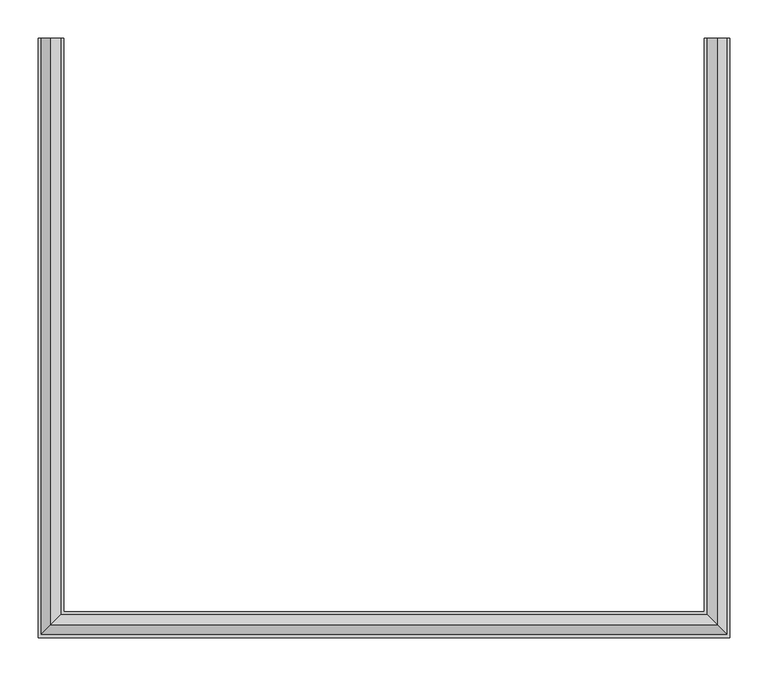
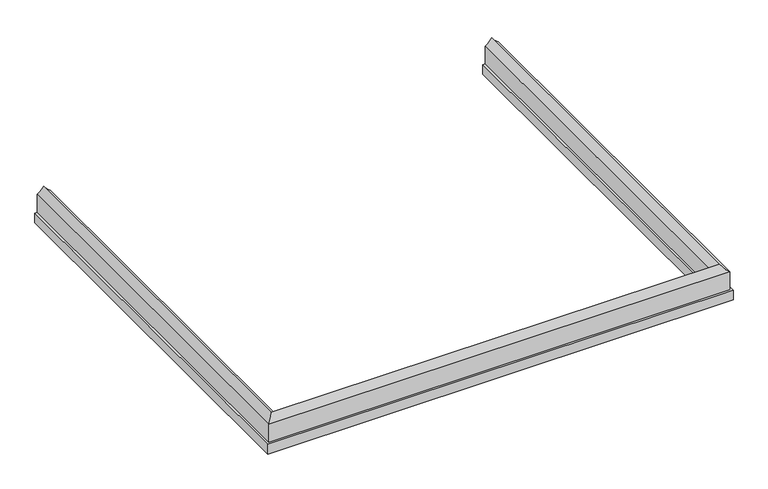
"""IFC4 building model written with IfcOpenShell, lengths in millimetres: proxy geometry, Toilet-Partition_Ironwood-Mfg_Compact-Laminate : Compact Laminate - Headrail Braced - Louver Door."""

from ifc_helpers import new_model, si_unit, frame, origin, place, context, project, spatial, polyline, circle_curve, ellipse_curve, source, transform, mapped, element, save
from ifc_brep_helpers import plane_surface, cylinder_surface, revolved_surface, advanced_brep


def specialty_equipment_5617d1bd(model_context):
    return source(origin(), model_context, "Body", "AdvancedBrep", [
        advanced_brep(
        [(663.448, 0.0, 2063.75), (662.257375, 0.0, 2063.75), (662.257375, 0.0, 2083.990625), (666.623, 0.0, 2083.990625), (666.623, 0.0, 2120.9), (679.323, 0.0, 2133.6), (692.023, 0.0, 2120.9), (692.023, 0.0, 2083.990625), (696.388625, 0.0, 2083.990625), (696.388625, 0.0, 2063.75), (695.198, 0.0, 2063.75), (695.198, 0.0, 2082.8), (663.448, 0.0, 2082.8), (667.813625, 0.0, 2119.709375), (667.813625, 0.0, 2083.990625), (690.832375, 0.0, 2083.990625), (690.832375, 0.0, 2119.709375), (679.323, 0.0, 2131.21875), (663.448, -755.65, 2063.75), (663.448, -755.65, 2082.8), (-180.848, -755.65, 2082.8), (-180.848, -755.65, 2063.75), (695.198, -787.4, 2082.8), (695.198, -787.4, 2063.75), (-212.598, -787.4, 2063.75), (-212.598, -787.4, 2082.8), (696.388625, -788.590625, 2063.75), (696.388625, -788.590625, 2083.990625), (-213.788625, -788.590625, 2083.990625), (-213.788625, -788.590625, 2063.75), (692.023, -784.225, 2083.990625), (692.023, -784.225, 2120.9), (-209.423, -784.225, 2120.9), (-209.423, -784.225, 2083.990625), (679.323, -771.525, 2133.6), (-196.723, -771.525, 2133.6), (666.623, -758.825, 2120.9), (-184.023, -758.825, 2120.9), (666.623, -758.825, 2083.990625), (-184.023, -758.825, 2083.990625), (662.257375, -754.459375, 2083.990625), (662.257375, -754.459375, 2063.75), (-179.657375, -754.459375, 2063.75), (-179.657375, -754.459375, 2083.990625), (667.813625, -760.015625, 2119.709375), (679.323, -771.525, 2131.21875), (-196.723, -771.525, 2131.21875), (-185.213625, -760.015625, 2119.709375), (690.832375, -783.034375, 2119.709375), (-208.232375, -783.034375, 2119.709375), (690.832375, -783.034375, 2083.990625), (-208.232375, -783.034375, 2083.990625), (667.813625, -760.015625, 2083.990625), (-185.213625, -760.015625, 2083.990625), (-180.848, 0.0, 2063.75), (-180.848, 0.0, 2082.8), (-212.598, 0.0, 2082.8), (-212.598, 0.0, 2063.75), (-213.788625, 0.0, 2063.75), (-213.788625, 0.0, 2083.990625), (-209.423, 0.0, 2083.990625), (-209.423, 0.0, 2120.9), (-196.723, 0.0, 2133.6), (-184.023, 0.0, 2120.9), (-184.023, 0.0, 2083.990625), (-179.657375, 0.0, 2083.990625), (-179.657375, 0.0, 2063.75), (-185.213625, 0.0, 2119.709375), (-196.723, 0.0, 2131.21875), (-208.232375, 0.0, 2119.709375), (-208.232375, 0.0, 2083.990625), (-185.213625, 0.0, 2083.990625)],
        [
            (0, 1),
            (1, 2),
            (2, 3),
            (3, 4),
            (4, 5, circle_curve(frame((649.9091809, 0.0, 2150.3138191), z_axis=(0.0, -1.0, 0.0), x_axis=(1.0, 0.0, 0.0)), 33.8308218)),
            (5, 6, circle_curve(frame((708.7368191, 0.0, 2150.3138191), z_axis=(0.0, -1.0, 0.0), x_axis=(1.0, 0.0, 0.0)), 33.8308218)),
            (6, 7),
            (7, 8),
            (8, 9),
            (9, 10),
            (10, 11),
            (11, 12),
            (12, 0),
            (13, 14),
            (14, 15),
            (15, 16),
            (16, 17, circle_curve(frame((709.9824574, 0.0, 2150.3688324), z_axis=(0.0, 1.0, 0.0), x_axis=(1.0, 0.0, 0.0)), 36.1486927)),
            (17, 13, circle_curve(frame((648.6635426, 0.0, 2150.3688324), z_axis=(0.0, 1.0, 0.0), x_axis=(1.0, 0.0, 0.0)), 36.1486927)),
            (18, 19),
            (19, 20),
            (20, 21),
            (21, 18),
            (22, 23),
            (23, 24),
            (24, 25),
            (25, 22),
            (26, 27),
            (27, 28),
            (28, 29),
            (29, 26),
            (30, 31),
            (31, 32),
            (32, 33),
            (33, 30),
            (31, 34, ellipse_curve(frame((708.7368191, -800.9388191, 2150.3138191), z_axis=(0.7071067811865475, 0.7071067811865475, 0.0), x_axis=(-0.7071067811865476, 0.7071067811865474, 0.0)), 47.844007, 33.8308218)),
            (34, 35),
            (35, 32, ellipse_curve(frame((-226.1368191, -800.9388191, 2150.3138191), z_axis=(-0.7071067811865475, 0.7071067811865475, 0.0), x_axis=(-0.7071067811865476, -0.7071067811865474, 0.0)), 47.844007, 33.8308218)),
            (34, 36, ellipse_curve(frame((649.9091809, -742.1111809, 2150.3138191), z_axis=(0.7071067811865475, 0.7071067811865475, 0.0), x_axis=(-0.7071067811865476, 0.7071067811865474, 0.0)), 47.844007, 33.8308218)),
            (36, 37),
            (37, 35, ellipse_curve(frame((-167.3091809, -742.1111809, 2150.3138191), z_axis=(-0.7071067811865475, 0.7071067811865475, 0.0), x_axis=(-0.7071067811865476, -0.7071067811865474, 0.0)), 47.844007, 33.8308218)),
            (36, 38),
            (38, 39),
            (39, 37),
            (40, 41),
            (41, 42),
            (42, 43),
            (43, 40),
            (44, 45, ellipse_curve(frame((648.6635426, -740.8655426, 2150.3688324), z_axis=(-0.7071067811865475, -0.7071067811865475, 0.0), x_axis=(0.7071067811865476, -0.7071067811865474, 0.0)), 51.1219715, 36.1486927)),
            (45, 46),
            (46, 47, ellipse_curve(frame((-166.0635426, -740.8655426, 2150.3688324), z_axis=(0.7071067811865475, -0.7071067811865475, 0.0), x_axis=(0.7071067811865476, 0.7071067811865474, 0.0)), 51.1219715, 36.1486927)),
            (47, 44),
            (45, 48, ellipse_curve(frame((709.9824574, -802.1844574, 2150.3688324), z_axis=(-0.7071067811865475, -0.7071067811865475, 0.0), x_axis=(0.7071067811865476, -0.7071067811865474, 0.0)), 51.1219715, 36.1486927)),
            (48, 49),
            (49, 46, ellipse_curve(frame((-227.3824574, -802.1844574, 2150.3688324), z_axis=(0.7071067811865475, -0.7071067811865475, 0.0), x_axis=(0.7071067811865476, 0.7071067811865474, 0.0)), 51.1219715, 36.1486927)),
            (48, 50),
            (50, 51),
            (51, 49),
            (52, 44),
            (47, 53),
            (53, 52),
            (54, 55),
            (55, 56),
            (56, 57),
            (57, 58),
            (58, 59),
            (59, 60),
            (60, 61),
            (61, 62, circle_curve(frame((-226.1368191, 0.0, 2150.3138191), z_axis=(0.0, -1.0, 0.0), x_axis=(-1.0, 0.0, 0.0)), 33.8308218)),
            (62, 63, circle_curve(frame((-167.3091809, 0.0, 2150.3138191), z_axis=(0.0, -1.0, 0.0), x_axis=(-1.0, 0.0, 0.0)), 33.8308218)),
            (63, 64),
            (64, 65),
            (65, 66),
            (66, 54),
            (67, 68, circle_curve(frame((-166.0635426, 0.0, 2150.3688324), z_axis=(0.0, 1.0, 0.0), x_axis=(-1.0, 0.0, 0.0)), 36.1486927)),
            (68, 69, circle_curve(frame((-227.3824574, 0.0, 2150.3688324), z_axis=(0.0, 1.0, 0.0), x_axis=(-1.0, 0.0, 0.0)), 36.1486927)),
            (69, 70),
            (70, 71),
            (71, 67),
            (20, 55),
            (54, 21),
            (24, 57),
            (56, 25),
            (28, 59),
            (58, 29),
            (32, 61),
            (60, 33),
            (35, 62),
            (37, 63),
            (39, 64),
            (42, 66),
            (65, 43),
            (46, 68),
            (67, 47),
            (49, 69),
            (51, 70),
            (71, 53),
            (0, 18),
            (41, 1),
            (40, 2),
            (38, 3),
            (36, 4),
            (34, 5),
            (31, 6),
            (30, 7),
            (27, 8),
            (26, 9),
            (23, 10),
            (22, 11),
            (19, 12),
            (13, 44),
            (52, 14),
            (50, 15),
            (48, 16),
            (45, 17),
        ],
        [
            plane_surface(frame((695.198, 0.0, 0.0), z_axis=(0.0, 1.0, 0.0), x_axis=(0.0, 0.0, 1.0))),
            plane_surface(frame((663.448, -755.65, 2082.8), z_axis=(0.0, -1.0, 0.0), x_axis=(-1.0, 0.0, 0.0))),
            plane_surface(frame((695.198, -787.4, 2063.75), z_axis=(0.0, 1.0, 0.0), x_axis=(-1.0, 0.0, 0.0))),
            plane_surface(frame((696.388625, -788.590625, 2083.990625), z_axis=(0.0, -1.0, 0.0), x_axis=(-1.0, 0.0, 0.0))),
            plane_surface(frame((692.023, -784.225, 2120.9), z_axis=(0.0, -1.0, 0.0), x_axis=(-1.0, 0.0, 0.0))),
            revolved_surface(polyline([(-259.9676408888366, -834.7696409, 2150.3138191), (742.5676408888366, -834.7696409, 2150.3138191)]), (695.198, -800.9388191, 2150.3138191), (-1.0, 0.0, 0.0)),
            revolved_surface(polyline([(-201.1400026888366, -775.9420027, 2150.3138191), (683.7400026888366, -775.9420027, 2150.3138191)]), (695.198, -742.1111809, 2150.3138191), (-1.0, 0.0, 0.0)),
            plane_surface(frame((666.623, -758.825, 2083.990625), z_axis=(0.0, 1.0, 0.0), x_axis=(-1.0, 0.0, 0.0))),
            plane_surface(frame((662.257375, -754.459375, 2063.75), z_axis=(0.0, 1.0, 0.0), x_axis=(-1.0, 0.0, 0.0))),
            cylinder_surface(frame((695.198, -740.8655426, 2150.3688324), z_axis=(1.0, 0.0, 0.0), x_axis=(0.0, -1.0, 0.0)), 36.1486927),
            cylinder_surface(frame((695.198, -802.1844574, 2150.3688324), z_axis=(1.0, 0.0, 0.0), x_axis=(0.0, -1.0, 0.0)), 36.1486927),
            plane_surface(frame((690.832375, -783.034375, 2083.990625), z_axis=(0.0, 1.0, 0.0), x_axis=(-1.0, 0.0, 0.0))),
            plane_surface(frame((667.813625, -760.015625, 2119.709375), z_axis=(0.0, -1.0, 0.0), x_axis=(-1.0, 0.0, 0.0))),
            plane_surface(frame((-212.598, 0.0, 0.0), z_axis=(0.0, 1.0, 0.0), x_axis=(0.0, 0.0, 1.0))),
            plane_surface(frame((-180.848, -755.65, 2082.8), z_axis=(-1.0, 0.0, 0.0), x_axis=(0.0, 1.0, 0.0))),
            plane_surface(frame((-212.598, -787.4, 2063.75), z_axis=(1.0, 0.0, 0.0), x_axis=(0.0, 1.0, 0.0))),
            plane_surface(frame((-213.788625, -788.590625, 2083.990625), z_axis=(-1.0, 0.0, 0.0), x_axis=(0.0, 1.0, 0.0))),
            plane_surface(frame((-209.423, -784.225, 2120.9), z_axis=(-1.0, 0.0, 0.0), x_axis=(0.0, 1.0, 0.0))),
            revolved_surface(polyline([(-259.9676409, 0.0, 2150.3138191), (-259.9676409, -834.7696408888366, 2150.3138191)]), (-226.1368191, -787.4, 2150.3138191), (0.0, 1.0, 0.0)),
            revolved_surface(polyline([(-201.1400027, 0.0, 2150.3138191), (-201.1400027, -775.9420026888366, 2150.3138191)]), (-167.3091809, -787.4, 2150.3138191), (0.0, 1.0, 0.0)),
            plane_surface(frame((-184.023, -758.825, 2083.990625), z_axis=(1.0, 0.0, 0.0), x_axis=(0.0, 1.0, 0.0))),
            plane_surface(frame((-179.657375, -754.459375, 2063.75), z_axis=(1.0, 0.0, 0.0), x_axis=(0.0, 1.0, 0.0))),
            cylinder_surface(frame((-166.0635426, -787.4, 2150.3688324), z_axis=(0.0, -1.0, 0.0), x_axis=(-1.0, 0.0, 0.0)), 36.1486927),
            cylinder_surface(frame((-227.3824574, -787.4, 2150.3688324), z_axis=(0.0, -1.0, 0.0), x_axis=(-1.0, 0.0, 0.0)), 36.1486927),
            plane_surface(frame((-208.232375, -783.034375, 2083.990625), z_axis=(1.0, 0.0, 0.0), x_axis=(0.0, 1.0, 0.0))),
            plane_surface(frame((-185.213625, -760.015625, 2119.709375), z_axis=(-1.0, 0.0, 0.0), x_axis=(0.0, 1.0, 0.0))),
            plane_surface(frame((663.448, 0.0, 2063.75), z_axis=(0.0, 0.0, -1.0), x_axis=(0.0, -1.0, 0.0))),
            plane_surface(frame((662.257375, 0.0, 2063.75), z_axis=(-1.0, 0.0, 0.0), x_axis=(0.0, -1.0, 0.0))),
            plane_surface(frame((662.257375, 0.0, 2083.990625), z_axis=(0.0, 0.0, 1.0), x_axis=(0.0, -1.0, 0.0))),
            plane_surface(frame((666.623, 0.0, 2083.990625), z_axis=(-1.0, 0.0, 0.0), x_axis=(0.0, -1.0, 0.0))),
            revolved_surface(polyline([(683.7400027, -775.9420026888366, 2150.3138191), (683.7400027, 0.0, 2150.3138191)]), (649.9091809, 0.0, 2150.3138191), (0.0, -1.0, 0.0)),
            revolved_surface(polyline([(742.5676409, -834.7696408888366, 2150.3138191), (742.5676409, 0.0, 2150.3138191)]), (708.7368191, 0.0, 2150.3138191), (0.0, -1.0, 0.0)),
            plane_surface(frame((692.023, 0.0, 2120.9), z_axis=(1.0, 0.0, 0.0), x_axis=(0.0, -1.0, 0.0))),
            plane_surface(frame((692.023, 0.0, 2083.990625), z_axis=(0.0, 0.0, 1.0), x_axis=(0.0, -1.0, 0.0))),
            plane_surface(frame((696.388625, 0.0, 2083.990625), z_axis=(1.0, 0.0, 0.0), x_axis=(0.0, -1.0, 0.0))),
            plane_surface(frame((696.388625, 0.0, 2063.75), z_axis=(0.0, 0.0, -1.0), x_axis=(0.0, -1.0, 0.0))),
            plane_surface(frame((695.198, 0.0, 2063.75), z_axis=(-1.0, 0.0, 0.0), x_axis=(0.0, -1.0, 0.0))),
            plane_surface(frame((695.198, 0.0, 2082.8), z_axis=(0.0, 0.0, -1.0), x_axis=(0.0, -1.0, 0.0))),
            plane_surface(frame((663.448, 0.0, 2082.8), z_axis=(1.0, 0.0, 0.0), x_axis=(0.0, -1.0, 0.0))),
            plane_surface(frame((667.813625, 0.0, 2119.709375), z_axis=(1.0, 0.0, 0.0), x_axis=(0.0, -1.0, 0.0))),
            plane_surface(frame((667.813625, 0.0, 2083.990625), z_axis=(0.0, 0.0, 1.0), x_axis=(0.0, -1.0, 0.0))),
            plane_surface(frame((690.832375, 0.0, 2083.990625), z_axis=(-1.0, 0.0, 0.0), x_axis=(0.0, -1.0, 0.0))),
            cylinder_surface(frame((709.9824574, 0.0, 2150.3688324), z_axis=(0.0, 1.0, 0.0), x_axis=(1.0, 0.0, 0.0)), 36.1486927),
            cylinder_surface(frame((648.6635426, 0.0, 2150.3688324), z_axis=(0.0, 1.0, 0.0), x_axis=(1.0, 0.0, 0.0)), 36.1486927),
        ],
        [
            (0, [[1, 2, 3, 4, 5, 6, 7, 8, 9, 10, 11, 12, 13], [14, 15, 16, 17, 18]]),
            (1, [[19, 20, 21, 22]]),
            (2, [[23, 24, 25, 26]]),
            (3, [[27, 28, 29, 30]]),
            (4, [[31, 32, 33, 34]]),
            (5, [[35, 36, 37, -32]]),
            (6, [[38, 39, 40, -36]]),
            (7, [[41, 42, 43, -39]]),
            (8, [[44, 45, 46, 47]]),
            (9, [[48, 49, 50, 51]]),
            (10, [[52, 53, 54, -49]]),
            (11, [[55, 56, 57, -53]]),
            (12, [[58, -51, 59, 60]]),
            (13, [[61, 62, 63, 64, 65, 66, 67, 68, 69, 70, 71, 72, 73], [74, 75, 76, 77, 78]]),
            (14, [[-21, 79, -61, 80]]),
            (15, [[-25, 81, -63, 82]]),
            (16, [[-29, 83, -65, 84]]),
            (17, [[-33, 85, -67, 86]]),
            (18, [[-37, 87, -68, -85]]),
            (19, [[-40, 88, -69, -87]]),
            (20, [[-43, 89, -70, -88]]),
            (21, [[-46, 90, -72, 91]]),
            (22, [[-50, 92, -74, 93]]),
            (23, [[-54, 94, -75, -92]]),
            (24, [[-57, 95, -76, -94]]),
            (25, [[-59, -93, -78, 96]]),
            (26, [[-1, 97, -22, -80, -73, -90, -45, 98]]),
            (27, [[-2, -98, -44, 99]]),
            (28, [[-3, -99, -47, -91, -71, -89, -42, 100]]),
            (29, [[-4, -100, -41, 101]]),
            (30, [[-5, -101, -38, 102]]),
            (31, [[-6, -102, -35, 103]]),
            (32, [[-7, -103, -31, 104]]),
            (33, [[-8, -104, -34, -86, -66, -83, -28, 105]]),
            (34, [[-9, -105, -27, 106]]),
            (35, [[-10, -106, -30, -84, -64, -81, -24, 107]]),
            (36, [[-11, -107, -23, 108]]),
            (37, [[-12, -108, -26, -82, -62, -79, -20, 109]]),
            (38, [[-13, -109, -19, -97]]),
            (39, [[-14, 110, -58, 111]]),
            (40, [[-15, -111, -60, -96, -77, -95, -56, 112]]),
            (41, [[-16, -112, -55, 113]]),
            (42, [[-17, -113, -52, 114]]),
            (43, [[-18, -114, -48, -110]]),
        ],
    ),
    ])


if __name__ == "__main__":
    model = new_model("IFC4")
    model_context = context("Model", 3, world=origin())
    ifc_project = project(units=[si_unit("LENGTHUNIT", "METRE", prefix="MILLI")], contexts=[model_context])
    site = spatial("IfcSite", under=ifc_project)
    building = spatial("IfcBuilding", under=site)
    placement = place(None, origin())
    specialty_equipment_shape = specialty_equipment_5617d1bd(model_context)
    element("IfcBuildingElementProxy", 1, Name="Toilet-Partition_Ironwood-Mfg_Compact-Laminate : Compact Laminate - Headrail Braced - Louver Door", ObjectType="Toilet-Partition_Ironwood-Mfg_Compact-Laminate : Compact Laminate - Headrail Braced - Louver Door", at=placement, inside=building, context=model_context, shape_type="MappedRepresentation", body=[
        mapped(specialty_equipment_shape, transform((0.0, 0.0, 0.0), x_axis=(1.0, 0.0, 0.0), y_axis=(0.0, 1.0, 0.0), z_axis=(0.0, 0.0, 1.0))),
    ])
    save(model, "model.ifc")
